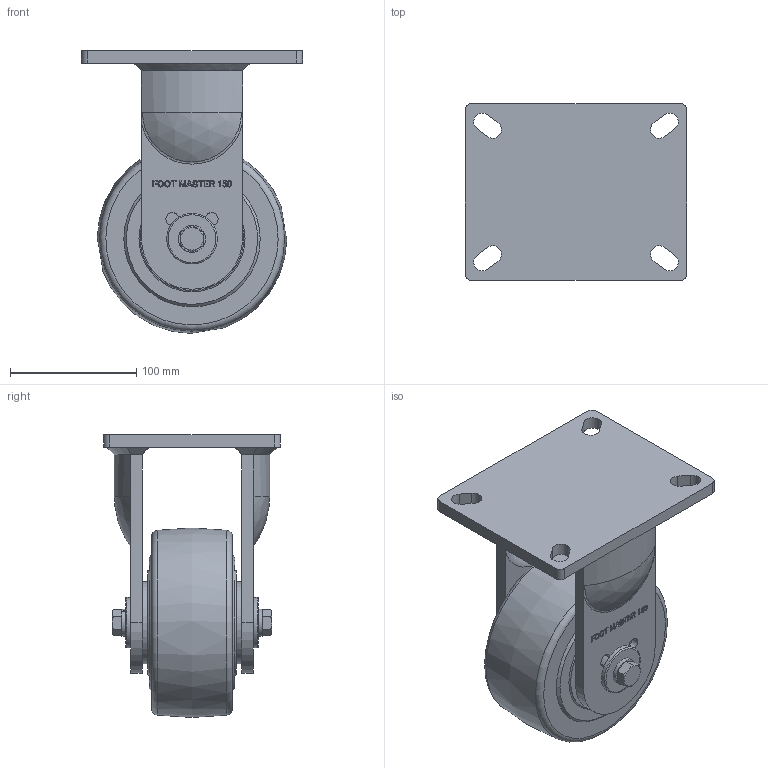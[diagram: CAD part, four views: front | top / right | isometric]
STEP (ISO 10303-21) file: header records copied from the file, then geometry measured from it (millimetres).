
FILE_DESCRIPTION(/* description */ (''),/* implementation_level */ '2;1');
FILE_NAME(/* name */ 'Y:\1.기술연구소\2.연구개발 진행중\133.고하중캐스터 브레이크 타입 변경건_2025.11.03\1.도면\4.홈페이지용 도면\01. 3D\GXT-150 SERIES\GXT-150-STEP\GXT-150-ARF-HUD.stp',/* time_stamp */ '2026-07-22T11:19:38+09:00',/* author */ ('장용하'),/* organization */ (''),/* preprocessor_version */ 'ST-DEVELOPER v18.1',/* originating_system */ 'Autodesk Inventor 2021',/* authorisation */ '');
FILE_SCHEMA (('CONFIG_CONTROL_DESIGN'));
Length unit declared in the file: millimetre
Products named in the file (1): GXT-150-ARF-HUD
Bounding box: 175 x 140 x 223.99 mm (x, y, z)
Volume: 1687743.6 mm3; surface area: 171134.4 mm2
Topology: 1 solids, 1 shells, 583 faces, 1579 edges, 1044 vertices
Faces by surface type: plane 290, bspline 213, cylinder 48, cone 16, torus 12, sphere 4
Full cylindrical faces by diameter (mm): 12 x2, 21.5 x2, 40 x2, 65 x2
Entity records: 18999 total; most frequent: CARTESIAN_POINT 5589, ORIENTED_EDGE 3158, DIRECTION 2076, EDGE_CURVE 1579, VERTEX_POINT 1044, LINE 928, VECTOR 928, EDGE_LOOP 643
